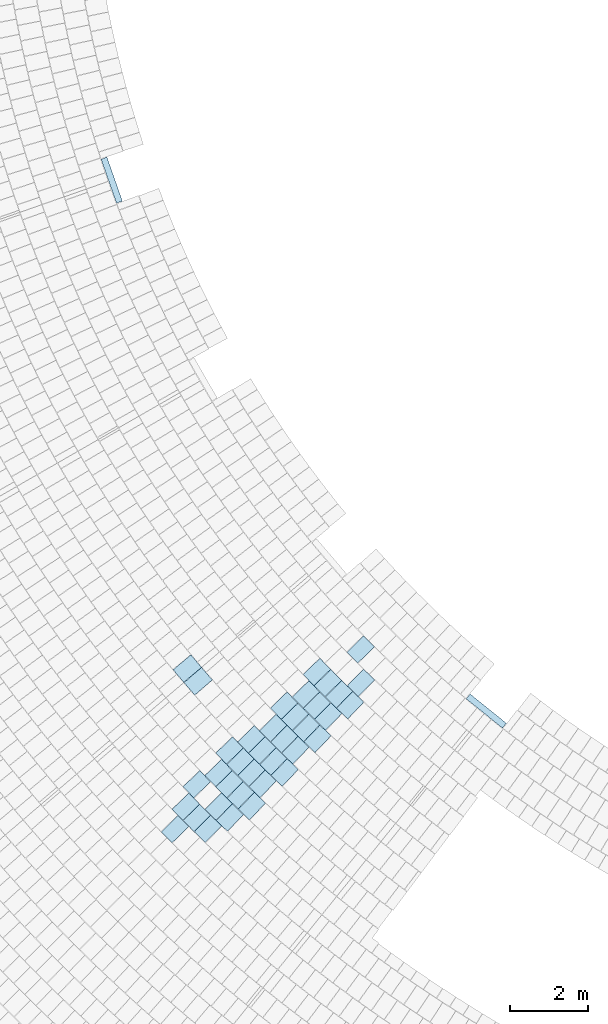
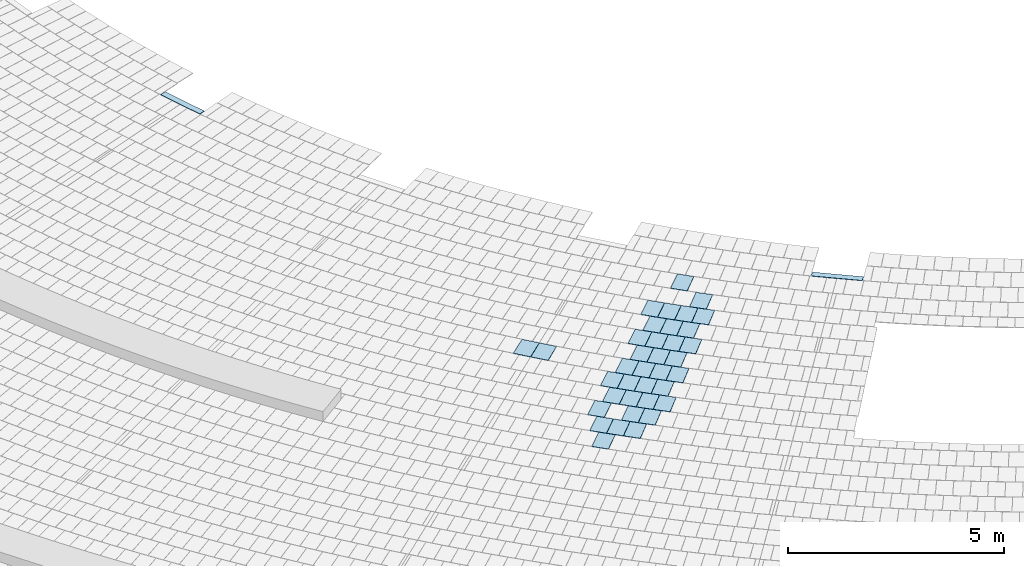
# One storey, part 8 of 438: 39 slabs.
"""IFC2X3 building model written with IfcOpenShell, lengths in millimetres."""

from ifc_helpers import new_model, entity, si_unit, converted_unit, derived_unit, direction, frame, frame_2d, origin, place, context, subcontext, project, spatial, polyline, rectangle, outline, extrude, material, layer, layer_set, layer_usage, type_object, element, save


model = new_model("IFC2X3")

# Units and contexts
model_context = context("Model", 3, precision=0.01, world=origin(), true_north=direction((6.123031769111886e-17, 1.0)))
body_context = subcontext(model_context, "Body", "Model", "MODEL_VIEW")
ifc_project = project(units=[si_unit("LENGTHUNIT", "METRE", prefix="MILLI"), si_unit("AREAUNIT", "SQUARE_METRE"), si_unit("VOLUMEUNIT", "CUBIC_METRE"), converted_unit("PLANEANGLEUNIT", "DEGREE", entity("IfcRatioMeasure", 0.017453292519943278), si_unit("PLANEANGLEUNIT", "RADIAN"), dimensions=[0, 0, 0, 0, 0, 0, 0]), si_unit("MASSUNIT", "GRAM", prefix="KILO"), derived_unit("MASSDENSITYUNIT", [(si_unit("MASSUNIT", "GRAM", prefix="KILO"), 1), (si_unit("LENGTHUNIT", "METRE"), -3)]), derived_unit("MOMENTOFINERTIAUNIT", [(si_unit("LENGTHUNIT", "METRE"), 4)]), si_unit("TIMEUNIT", "SECOND"), si_unit("FREQUENCYUNIT", "HERTZ"), si_unit("THERMODYNAMICTEMPERATUREUNIT", "DEGREE_CELSIUS"), derived_unit("THERMALTRANSMITTANCEUNIT", [(si_unit("MASSUNIT", "GRAM", prefix="KILO"), 1), (si_unit("THERMODYNAMICTEMPERATUREUNIT", "KELVIN"), -1), (si_unit("TIMEUNIT", "SECOND"), -3)]), derived_unit("THERMALCONDUCTANCEUNIT", [(si_unit("MASSUNIT", "GRAM", prefix="KILO"), 1), (si_unit("LENGTHUNIT", "METRE"), 1), (si_unit("THERMODYNAMICTEMPERATUREUNIT", "KELVIN"), -1), (si_unit("TIMEUNIT", "SECOND"), -3)]), derived_unit("VOLUMETRICFLOWRATEUNIT", [(si_unit("LENGTHUNIT", "METRE"), 3), (si_unit("TIMEUNIT", "SECOND"), -1)]), derived_unit("MASSFLOWRATEUNIT", [(si_unit("MASSUNIT", "GRAM", prefix="KILO"), 1), (si_unit("TIMEUNIT", "SECOND"), -1)]), derived_unit("ROTATIONALFREQUENCYUNIT", [(si_unit("TIMEUNIT", "SECOND"), -1)]), si_unit("ELECTRICCURRENTUNIT", "AMPERE"), si_unit("ELECTRICVOLTAGEUNIT", "VOLT"), si_unit("POWERUNIT", "WATT"), converted_unit("FORCEUNIT", "KIP", entity("IfcRatioMeasure", 2.088543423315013e-05), si_unit("FORCEUNIT", "NEWTON"), dimensions=[1, 1, -2, 0, 0, 0, 0]), si_unit("ILLUMINANCEUNIT", "LUX"), si_unit("LUMINOUSFLUXUNIT", "LUMEN"), si_unit("LUMINOUSINTENSITYUNIT", "CANDELA"), derived_unit("USERDEFINED", [(si_unit("MASSUNIT", "GRAM", prefix="KILO"), -1), (si_unit("LENGTHUNIT", "METRE"), -2), (si_unit("TIMEUNIT", "SECOND"), 3), (si_unit("LUMINOUSFLUXUNIT", "LUMEN"), 1)]), derived_unit("USERDEFINED", [(si_unit("MASSUNIT", "GRAM", prefix="KILO"), 1), (si_unit("LENGTHUNIT", "METRE"), 3), (si_unit("TIMEUNIT", "SECOND"), -3), (si_unit("ELECTRICCURRENTUNIT", "AMPERE"), -2)]), derived_unit("USERDEFINED", [(si_unit("LENGTHUNIT", "METRE"), 2), (si_unit("TIMEUNIT", "SECOND"), -2)]), derived_unit("SOUNDPOWERUNIT", [(si_unit("MASSUNIT", "GRAM", prefix="KILO"), 1), (si_unit("LENGTHUNIT", "METRE"), 2), (si_unit("TIMEUNIT", "SECOND"), -3)]), derived_unit("SOUNDPRESSUREUNIT", [(si_unit("MASSUNIT", "GRAM", prefix="KILO"), 1), (si_unit("LENGTHUNIT", "METRE"), -1), (si_unit("TIMEUNIT", "SECOND"), -2)]), derived_unit("LINEARVELOCITYUNIT", [(si_unit("LENGTHUNIT", "METRE"), 1), (si_unit("TIMEUNIT", "SECOND"), -1)]), si_unit("PRESSUREUNIT", "PASCAL"), derived_unit("USERDEFINED", [(si_unit("LENGTHUNIT", "METRE"), -2), (si_unit("MASSUNIT", "GRAM", prefix="KILO"), 1), (si_unit("TIMEUNIT", "SECOND"), -2)]), derived_unit("LINEARFORCEUNIT", [(si_unit("MASSUNIT", "GRAM", prefix="KILO"), 1), (si_unit("LENGTHUNIT", "METRE"), 1), (si_unit("TIMEUNIT", "SECOND"), -2), (si_unit("LENGTHUNIT", "METRE"), -1)]), derived_unit("PLANARFORCEUNIT", [(si_unit("MASSUNIT", "GRAM", prefix="KILO"), 1), (si_unit("LENGTHUNIT", "METRE"), 1), (si_unit("TIMEUNIT", "SECOND"), -2), (si_unit("LENGTHUNIT", "METRE"), -2)]), derived_unit("SPECIFICHEATCAPACITYUNIT", [(si_unit("LENGTHUNIT", "METRE"), 2), (si_unit("TIMEUNIT", "SECOND"), -2), (si_unit("THERMODYNAMICTEMPERATUREUNIT", "KELVIN"), -1)]), derived_unit("VAPORPERMEABILITYUNIT", [(si_unit("TIMEUNIT", "SECOND"), 1), (si_unit("LENGTHUNIT", "METRE"), -1)]), derived_unit("DYNAMICVISCOSITYUNIT", [(si_unit("MASSUNIT", "GRAM", prefix="KILO"), 1), (si_unit("LENGTHUNIT", "METRE"), -1), (si_unit("TIMEUNIT", "SECOND"), -1)]), derived_unit("THERMALEXPANSIONCOEFFICIENTUNIT", [(si_unit("THERMODYNAMICTEMPERATUREUNIT", "KELVIN"), -1)])], contexts=[model_context])

# Site, building, storey
site_placement = place(None, frame((0.0, 0.0, 0.0), z_axis=(0.0, 0.0, 1.0), x_axis=(0.8191520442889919, 0.5735764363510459, 0.0)))
site = spatial("IfcSite", under=ifc_project, at=site_placement, Name="Default", CompositionType="ELEMENT")
building_placement = place(site_placement, origin())
building = spatial("IfcBuilding", under=site, at=building_placement, CompositionType="ELEMENT")
storey_placement = place(building_placement, origin())
storey = spatial("IfcBuildingStorey", under=building, at=storey_placement, Name="PLAN", CompositionType="ELEMENT", Elevation=0.0)

# Slabs
ifc_material = material(Name="Paint-01")
ifc_layer = layer(ifc_material, 20.00000000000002)
ifc_layer_set = layer_set([ifc_layer], Name="Floor:Slab-179:1000")
ifc_layer_usage = layer_usage(ifc_layer_set, "AXIS3", "POSITIVE", 0.0)
slab_type = type_object("IfcSlabType", Name="Floor:Slab-179:1000", PredefinedType="FLOOR", material=ifc_layer_set)
slab_1_placement = place(storey_placement, origin())
element("IfcSlab", 1, at=slab_1_placement, inside=storey, type_object=slab_type, material=ifc_layer_usage, Name="Floor:Slab-179:1000", ObjectType="Floor:Slab-179:1000", PredefinedType="FLOOR", context=body_context, shape_type="SweptSolid", body=[
    extrude(rectangle(XDim=1199.999999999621, YDim=160.00000000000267, at=frame_2d((1.2505552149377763e-11, -3.510081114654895e-12), x_axis=(1.0, 0.0))), frame((-69764.5221951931, -59684.35999595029, 520.0), z_axis=(0.0, 0.0, -1.0), x_axis=(-0.27021694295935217, -0.962799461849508, 0.0)), (0.0, 0.0, 1.0), 20.000000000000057),
])
slab_2_placement = place(storey_placement, origin())
element("IfcSlab", 2, at=slab_2_placement, inside=storey, type_object=slab_type, material=ifc_layer_usage, Name="Floor:Slab-179:1000", ObjectType="Floor:Slab-179:1000", PredefinedType="FLOOR", context=body_context, shape_type="SweptSolid", body=[
    extrude(rectangle(XDim=1199.9999999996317, YDim=160.00000000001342, at=frame_2d((4.149569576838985e-12, 1.2008172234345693e-12), x_axis=(1.0, 0.0))), frame((-69704.58627022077, -76421.48115330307, 520.0), z_axis=(0.0, 0.0, -1.0), x_axis=(0.277105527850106, -0.9608394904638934, 0.0)), (0.0, 0.0, 1.0), 20.000000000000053),
])
slab_3_placement = place(storey_placement, origin())
element("IfcSlab", 3, at=slab_3_placement, inside=storey, type_object=slab_type, material=ifc_layer_usage, Name="Floor:Slab-179:1000", ObjectType="Floor:Slab-179:1000", PredefinedType="FLOOR", context=body_context, shape_type="SweptSolid", body=[
    extrude(outline(polyline([(-300.0, -212.62516565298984), (299.999997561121, -212.6251656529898), (300.0, 212.6251656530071), (-299.9999975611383, 212.62516565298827), (-300.0, -212.62516565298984)])), frame((-75384.99255701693, -71107.78041818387, 520.0), z_axis=(0.0, 0.0, -1.0), x_axis=(0.9959950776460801, 0.08940808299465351, 0.0)), (0.0, 0.0, 1.0), 20.000000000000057),
])
slab_4_placement = place(storey_placement, origin())
element("IfcSlab", 4, at=slab_4_placement, inside=storey, type_object=slab_type, material=ifc_layer_usage, Name="Floor:Slab-179:1000", ObjectType="Floor:Slab-179:1000", PredefinedType="FLOOR", context=body_context, shape_type="SweptSolid", body=[
    extrude(outline(polyline([(-200.00000453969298, -299.999998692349), (200.00000134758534, -299.999998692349), (200.0000045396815, 299.9999986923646), (-200.000001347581, 299.99999869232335), (-200.00000453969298, -299.999998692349)])), frame((-71446.23757160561, -73264.51028152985, 520.0), z_axis=(0.0, 0.0, -1.0), x_axis=(0.16839005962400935, -0.9857204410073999, 0.0)), (0.0, 0.0, 1.0), 20.000000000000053),
])
slab_5_placement = place(storey_placement, origin())
element("IfcSlab", 5, at=slab_5_placement, inside=storey, type_object=slab_type, material=ifc_layer_usage, Name="Floor:Slab-179:1000", ObjectType="Floor:Slab-179:1000", PredefinedType="FLOOR", context=body_context, shape_type="SweptSolid", body=[
    extrude(outline(polyline([(-200.00000453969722, -299.99999869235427), (200.00000134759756, -299.99999869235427), (200.00000453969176, 299.9999986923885), (-200.00000134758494, 299.99999869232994), (-200.00000453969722, -299.99999869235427)])), frame((-72700.81646020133, -73093.06729597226, 520.0), z_axis=(0.0, 0.0, -1.0), x_axis=(0.15694595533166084, -0.9876071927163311, 0.0)), (0.0, 0.0, 1.0), 20.000000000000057),
])
slab_6_placement = place(storey_placement, origin())
element("IfcSlab", 6, at=slab_6_placement, inside=storey, type_object=slab_type, material=ifc_layer_usage, Name="Floor:Slab-179:1000", ObjectType="Floor:Slab-179:1000", PredefinedType="FLOOR", context=body_context, shape_type="SweptSolid", body=[
    extrude(outline(polyline([(-200.00000453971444, -299.99999869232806), (200.00000134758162, -299.999998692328), (200.00000453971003, 299.99999869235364), (-200.00000134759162, 299.9999986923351), (-200.00000453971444, -299.99999869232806)])), frame((-72635.00619412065, -73491.35323900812, 520.0), z_axis=(0.0, 0.0, -1.0), x_axis=(0.16909437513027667, -0.9855998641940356, 0.0)), (0.0, 0.0, 1.0), 20.000000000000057),
])
slab_7_placement = place(storey_placement, origin())
element("IfcSlab", 7, at=slab_7_placement, inside=storey, type_object=slab_type, material=ifc_layer_usage, Name="Floor:Slab-179:1000", ObjectType="Floor:Slab-179:1000", PredefinedType="FLOOR", context=body_context, shape_type="SweptSolid", body=[
    extrude(outline(polyline([(-300.0, -200.00000294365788), (299.9999976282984, -200.00000294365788), (300.0, 200.00000294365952), (-299.99999762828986, 200.00000294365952), (-300.0, -200.00000294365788)])), frame((-72488.69917299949, -74285.34334370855, 520.0), z_axis=(0.0, 0.0, -1.0), x_axis=(0.9811372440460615, 0.19331246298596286, 0.0)), (0.0, 0.0, 1.0), 20.000000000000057),
])
slab_8_placement = place(storey_placement, origin())
element("IfcSlab", 8, at=slab_8_placement, inside=storey, type_object=slab_type, material=ifc_layer_usage, Name="Floor:Slab-179:1000", ObjectType="Floor:Slab-179:1000", PredefinedType="FLOOR", context=body_context, shape_type="SweptSolid", body=[
    extrude(outline(polyline([(-200.00000453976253, -299.9999986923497), (200.00000134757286, -299.9999986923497), (200.00000453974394, 299.9999986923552), (-200.0000013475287, 299.9999986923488), (-200.00000453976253, -299.9999986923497)])), frame((-73194.59257295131, -73803.5564931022, 520.0), z_axis=(0.0, 0.0, -1.0), x_axis=(0.17538072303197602, -0.9845006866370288, 0.0)), (0.0, 0.0, 1.0), 20.000000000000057),
])
slab_9_placement = place(storey_placement, origin())
element("IfcSlab", 9, at=slab_9_placement, inside=storey, type_object=slab_type, material=ifc_layer_usage, Name="Floor:Slab-179:1000", ObjectType="Floor:Slab-179:1000", PredefinedType="FLOOR", context=body_context, shape_type="SweptSolid", body=[
    extrude(outline(polyline([(-200.00000453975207, -299.9999986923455), (200.00000134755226, -299.9999986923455), (200.00000453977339, 299.9999986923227), (-200.0000013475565, 299.99999869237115), (-200.00000453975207, -299.9999986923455)])), frame((-73262.97662288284, -73405.77262573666, 520.0), z_axis=(0.0, 0.0, -1.0), x_axis=(0.1634674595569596, -0.9865487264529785, 0.0)), (0.0, 0.0, 1.0), 20.000000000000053),
])
slab_10_placement = place(storey_placement, origin())
element("IfcSlab", 10, at=slab_10_placement, inside=storey, type_object=slab_type, material=ifc_layer_usage, Name="Floor:Slab-179:1000", ObjectType="Floor:Slab-179:1000", PredefinedType="FLOOR", context=body_context, shape_type="SweptSolid", body=[
    extrude(outline(polyline([(-200.00000453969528, -299.99999869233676), (200.00000134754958, -299.9999986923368), (200.00000453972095, 299.9999986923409), (-200.00000134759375, 299.9999986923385), (-200.00000453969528, -299.99999869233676)])), frame((-73889.9029089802, -73320.08111603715, 520.0), z_axis=(0.0, 0.0, -1.0), x_axis=(0.15803756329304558, -0.9874331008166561, 0.0)), (0.0, 0.0, 1.0), 19.99999999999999),
])
slab_11_placement = place(storey_placement, origin())
element("IfcSlab", 11, at=slab_11_placement, inside=storey, type_object=slab_type, material=ifc_layer_usage, Name="Floor:Slab-179:1000", ObjectType="Floor:Slab-179:1000", PredefinedType="FLOOR", context=body_context, shape_type="SweptSolid", body=[
    extrude(outline(polyline([(-200.00000453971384, -299.99999869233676), (200.00000134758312, -299.99999869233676), (200.00000453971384, 299.99999869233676), (-200.00000134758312, 299.99999869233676), (-200.00000453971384, -299.99999869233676)])), frame((-73823.7621080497, -73718.17838088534, 520.0), z_axis=(0.0, 0.0, -1.0), x_axis=(0.16974802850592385, -0.985487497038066, 0.0)), (0.0, 0.0, 1.0), 19.999999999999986),
])
slab_12_placement = place(storey_placement, origin())
element("IfcSlab", 12, at=slab_12_placement, inside=storey, type_object=slab_type, material=ifc_layer_usage, Name="Floor:Slab-179:1000", ObjectType="Floor:Slab-179:1000", PredefinedType="FLOOR", context=body_context, shape_type="SweptSolid", body=[
    extrude(outline(polyline([(-300.0, -200.0000029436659), (299.9999976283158, -200.0000029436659), (300.0, 200.0000029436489), (-299.9999976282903, 200.0000029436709), (-300.0, -200.0000029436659)])), frame((-73677.32729797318, -74511.87734896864, 520.0), z_axis=(0.0, 0.0, -1.0), x_axis=(0.9811799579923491, 0.1930955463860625, 0.0)), (0.0, 0.0, 1.0), 20.000000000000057),
])
slab_13_placement = place(storey_placement, origin())
element("IfcSlab", 13, at=slab_13_placement, inside=storey, type_object=slab_type, material=ifc_layer_usage, Name="Floor:Slab-179:1000", ObjectType="Floor:Slab-179:1000", PredefinedType="FLOOR", context=body_context, shape_type="SweptSolid", body=[
    extrude(outline(polyline([(-200.00000453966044, -299.9999986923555), (200.00000134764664, -299.9999986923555), (200.00000453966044, 299.99999869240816), (-200.00000134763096, 299.9999986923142), (-200.00000453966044, -299.9999986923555)])), frame((-74451.86450969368, -73632.67764053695, 520.0), z_axis=(0.0, 0.0, -1.0), x_axis=(0.1643087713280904, -0.9864089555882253, 0.0)), (0.0, 0.0, 1.0), 20.000000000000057),
])
slab_14_placement = place(storey_placement, origin())
element("IfcSlab", 14, at=slab_14_placement, inside=storey, type_object=slab_type, material=ifc_layer_usage, Name="Floor:Slab-179:1000", ObjectType="Floor:Slab-179:1000", PredefinedType="FLOOR", context=body_context, shape_type="SweptSolid", body=[
    extrude(outline(polyline([(-200.00000453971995, -299.999998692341), (200.00000134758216, -299.99999869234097), (200.00000453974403, 299.9999986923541), (-200.0000013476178, 299.9999986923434), (-200.00000453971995, -299.999998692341)])), frame((-74383.24770669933, -74030.29212398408, 520.0), z_axis=(0.0, 0.0, -1.0), x_axis=(0.1758005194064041, -0.9844258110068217, 0.0)), (0.0, 0.0, 1.0), 20.000000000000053),
])
slab_15_placement = place(storey_placement, origin())
element("IfcSlab", 15, at=slab_15_placement, inside=storey, type_object=slab_type, material=ifc_layer_usage, Name="Floor:Slab-179:1000", ObjectType="Floor:Slab-179:1000", PredefinedType="FLOOR", context=body_context, shape_type="SweptSolid", body=[
    extrude(outline(polyline([(-212.62520768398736, -299.9999986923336), (212.62520449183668, -299.99999869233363), (212.62520768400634, 299.9999986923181), (-212.6252044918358, 299.999998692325), (-212.62520768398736, -299.9999986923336)])), frame((-75343.86912508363, -71534.91875575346, 520.0), z_axis=(0.0, 0.0, -1.0), x_axis=(0.10225489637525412, -0.994758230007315, 0.0)), (0.0, 0.0, 1.0), 19.999999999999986),
])
slab_16_placement = place(storey_placement, origin())
element("IfcSlab", 16, at=slab_16_placement, inside=storey, type_object=slab_type, material=ifc_layer_usage, Name="Floor:Slab-179:1000", ObjectType="Floor:Slab-179:1000", PredefinedType="FLOOR", context=body_context, shape_type="SweptSolid", body=[
    extrude(outline(polyline([(-200.00000453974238, -299.99999869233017), (200.0000013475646, -299.99999869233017), (200.0000045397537, 299.9999986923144), (-200.00000134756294, 299.99999869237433), (-200.00000453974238, -299.99999869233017)])), frame((-75078.95478911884, -73547.06629778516, 520.0), z_axis=(0.0, 0.0, -1.0), x_axis=(0.15905332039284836, -0.9872699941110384, 0.0)), (0.0, 0.0, 1.0), 19.99999999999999),
])
slab_17_placement = place(storey_placement, origin())
element("IfcSlab", 17, at=slab_17_placement, inside=storey, type_object=slab_type, material=ifc_layer_usage, Name="Floor:Slab-179:1000", ObjectType="Floor:Slab-179:1000", PredefinedType="FLOOR", context=body_context, shape_type="SweptSolid", body=[
    extrude(outline(polyline([(-200.0000045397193, -299.99999869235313), (200.00000134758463, -299.99999869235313), (200.00000453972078, 299.9999986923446), (-200.00000134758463, 299.99999869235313), (-200.0000045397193, -299.99999869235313)])), frame((-75012.50662440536, -73944.98770232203, 520.0), z_axis=(0.0, 0.0, -1.0), x_axis=(0.1703563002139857, -0.9853825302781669, 0.0)), (0.0, 0.0, 1.0), 19.999999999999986),
])
slab_18_placement = place(storey_placement, origin())
element("IfcSlab", 18, at=slab_18_placement, inside=storey, type_object=slab_type, material=ifc_layer_usage, Name="Floor:Slab-179:1000", ObjectType="Floor:Slab-179:1000", PredefinedType="FLOOR", context=body_context, shape_type="SweptSolid", body=[
    extrude(outline(polyline([(-200.00000453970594, -299.99999869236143), (200.0000013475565, -299.99999869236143), (200.0000045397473, 299.9999986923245), (-200.00000134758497, 299.9999986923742), (-200.00000453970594, -299.99999869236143)])), frame((-75640.73211734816, -73859.5616706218, 520.0), z_axis=(0.0, 0.0, -1.0), x_axis=(0.16509264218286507, -0.986278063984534, 0.0)), (0.0, 0.0, 1.0), 20.000000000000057),
])
slab_19_placement = place(storey_placement, origin())
element("IfcSlab", 19, at=slab_19_placement, inside=storey, type_object=slab_type, material=ifc_layer_usage, Name="Floor:Slab-179:1000", ObjectType="Floor:Slab-179:1000", PredefinedType="FLOOR", context=body_context, shape_type="SweptSolid", body=[
    extrude(outline(polyline([(-200.0000045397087, -299.9999986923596), (200.00000134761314, -299.9999986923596), (200.00000453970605, 299.9999986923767), (-200.00000134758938, 299.9999986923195), (-200.0000045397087, -299.9999986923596)])), frame((-75705.08429222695, -73461.35503507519, 520.0), z_axis=(0.0, 0.0, -1.0), x_axis=(0.15397265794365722, -0.9880751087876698, 0.0)), (0.0, 0.0, 1.0), 20.000000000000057),
])
slab_20_placement = place(storey_placement, origin())
element("IfcSlab", 20, at=slab_20_placement, inside=storey, type_object=slab_type, material=ifc_layer_usage, Name="Floor:Slab-179:1000", ObjectType="Floor:Slab-179:1000", PredefinedType="FLOOR", context=body_context, shape_type="SweptSolid", body=[
    extrude(outline(polyline([(-200.00000453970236, -299.9999986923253), (200.00000134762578, -299.99999869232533), (200.00000453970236, 299.9999986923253), (-200.00000134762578, 299.99999869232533), (-200.00000453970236, -299.9999986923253)])), frame((-75571.89859551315, -74257.01817550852, 520.0), z_axis=(0.0, 0.0, -1.0), x_axis=(0.1761916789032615, -0.9843558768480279, 0.0)), (0.0, 0.0, 1.0), 20.000000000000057),
])
slab_21_placement = place(storey_placement, origin())
element("IfcSlab", 21, at=slab_21_placement, inside=storey, type_object=slab_type, material=ifc_layer_usage, Name="Floor:Slab-179:1000", ObjectType="Floor:Slab-179:1000", PredefinedType="FLOOR", context=body_context, shape_type="SweptSolid", body=[
    extrude(outline(polyline([(-200.00000453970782, -299.9999986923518), (200.0000013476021, -299.99999869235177), (200.00000453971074, 299.99999869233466), (-200.0000013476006, 299.99999869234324), (-200.00000453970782, -299.9999986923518)])), frame((-76201.24092873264, -74171.78262916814, 520.0), z_axis=(0.0, 0.0, -1.0), x_axis=(0.17092375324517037, -0.9852842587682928, 0.0)), (0.0, 0.0, 1.0), 20.000000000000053),
])
slab_22_placement = place(storey_placement, origin())
element("IfcSlab", 22, at=slab_22_placement, inside=storey, type_object=slab_type, material=ifc_layer_usage, Name="Floor:Slab-179:1000", ObjectType="Floor:Slab-179:1000", PredefinedType="FLOOR", context=body_context, shape_type="SweptSolid", body=[
    extrude(outline(polyline([(-200.00000453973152, -299.9999986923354), (200.0000013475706, -299.9999986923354), (200.00000453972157, 299.99999869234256), (-200.00000134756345, 299.9999986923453), (-200.00000453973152, -299.9999986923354)])), frame((-76267.9756379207, -73774.02552926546, 520.0), z_axis=(0.0, 0.0, -1.0), x_axis=(0.16000086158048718, -0.9871168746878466, 0.0)), (0.0, 0.0, 1.0), 20.000000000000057),
])
slab_23_placement = place(storey_placement, origin())
element("IfcSlab", 23, at=slab_23_placement, inside=storey, type_object=slab_type, material=ifc_layer_usage, Name="Floor:Slab-179:1000", ObjectType="Floor:Slab-179:1000", PredefinedType="FLOOR", context=body_context, shape_type="SweptSolid", body=[
    extrude(outline(polyline([(-300.0, -200.00000294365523), (299.9999976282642, -200.00000294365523), (300.0, 200.00000294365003), (-299.9999976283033, 200.00000294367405), (-300.0, -200.00000294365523)])), frame((-76054.5765693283, -74964.95760587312, 520.0), z_axis=(0.0, 0.0, -1.0), x_axis=(0.9812566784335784, 0.19270529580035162, 0.0)), (0.0, 0.0, 1.0), 19.999999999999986),
])
slab_24_placement = place(storey_placement, origin())
element("IfcSlab", 24, at=slab_24_placement, inside=storey, type_object=slab_type, material=ifc_layer_usage, Name="Floor:Slab-179:1000", ObjectType="Floor:Slab-179:1000", PredefinedType="FLOOR", context=body_context, shape_type="SweptSolid", body=[
    extrude(outline(polyline([(-200.0000045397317, -299.9999986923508), (200.00000134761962, -299.99999869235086), (200.0000045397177, 299.9999986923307), (-200.00000134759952, 299.9999986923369), (-200.0000045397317, -299.9999986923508)])), frame((-76760.54566417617, -74483.73559234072, 520.0), z_axis=(0.0, 0.0, -1.0), x_axis=(0.17655703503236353, -0.9842904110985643, 0.0)), (0.0, 0.0, 1.0), 20.000000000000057),
])
slab_25_placement = place(storey_placement, origin())
element("IfcSlab", 25, at=slab_25_placement, inside=storey, type_object=slab_type, material=ifc_layer_usage, Name="Floor:Slab-179:1000", ObjectType="Floor:Slab-179:1000", PredefinedType="FLOOR", context=body_context, shape_type="SweptSolid", body=[
    extrude(outline(polyline([(-200.00000453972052, -299.999998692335), (200.0000013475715, -299.999998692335), (200.00000453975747, 299.99999869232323), (-200.0000013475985, 299.99999869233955), (-200.00000453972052, -299.999998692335)])), frame((-76894.28532965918, -73688.38952769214, 520.0), z_axis=(0.0, 0.0, -1.0), x_axis=(0.15507280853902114, -0.9879030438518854, 0.0)), (0.0, 0.0, 1.0), 19.999999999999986),
])
slab_26_placement = place(storey_placement, origin())
element("IfcSlab", 26, at=slab_26_placement, inside=storey, type_object=slab_type, material=ifc_layer_usage, Name="Floor:Slab-179:1000", ObjectType="Floor:Slab-179:1000", PredefinedType="FLOOR", context=body_context, shape_type="SweptSolid", body=[
    extrude(outline(polyline([(-200.000004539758, -299.9999986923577), (200.0000013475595, -299.9999986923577), (200.00000453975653, 299.9999986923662), (-200.00000134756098, 299.9999986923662), (-200.000004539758, -299.9999986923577)])), frame((-77389.96600517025, -74398.56467005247, 520.0), z_axis=(0.0, 0.0, -1.0), x_axis=(0.1714543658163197, -0.9851920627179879, 0.0)), (0.0, 0.0, 1.0), 20.000000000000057),
])
slab_27_placement = place(storey_placement, origin())
element("IfcSlab", 27, at=slab_27_placement, inside=storey, type_object=slab_type, material=ifc_layer_usage, Name="Floor:Slab-179:1000", ObjectType="Floor:Slab-179:1000", PredefinedType="FLOOR", context=body_context, shape_type="SweptSolid", body=[
    extrude(outline(polyline([(-200.0000045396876, -299.9999986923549), (200.00000134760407, -299.99999869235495), (200.0000045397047, 299.99999869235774), (-200.00000134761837, 299.99999869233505), (-200.0000045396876, -299.9999986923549)])), frame((-77456.96848635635, -74000.96142142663, 520.0), z_axis=(0.0, 0.0, -1.0), x_axis=(0.1608868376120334, -0.9869728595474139, 0.0)), (0.0, 0.0, 1.0), 20.000000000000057),
])
slab_28_placement = place(storey_placement, origin())
element("IfcSlab", 28, at=slab_28_placement, inside=storey, type_object=slab_type, material=ifc_layer_usage, Name="Floor:Slab-179:1000", ObjectType="Floor:Slab-179:1000", PredefinedType="FLOOR", context=body_context, shape_type="SweptSolid", body=[
    extrude(outline(polyline([(-200.00000453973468, -299.9999986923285), (200.00000134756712, -299.9999986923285), (200.00000453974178, 299.99999869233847), (-200.00000134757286, 299.9999986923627), (-200.00000453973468, -299.9999986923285)])), frame((-78018.41433889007, -74313.27475111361, 520.0), z_axis=(0.0, 0.0, -1.0), x_axis=(0.16651008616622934, -0.9860397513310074, 0.0)), (0.0, 0.0, 1.0), 19.99999999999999),
])
slab_29_placement = place(storey_placement, origin())
element("IfcSlab", 29, at=slab_29_placement, inside=storey, type_object=slab_type, material=ifc_layer_usage, Name="Floor:Slab-179:1000", ObjectType="Floor:Slab-179:1000", PredefinedType="FLOOR", context=body_context, shape_type="SweptSolid", body=[
    extrude(outline(polyline([(-300.0, -200.0000029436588), (299.9999976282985, -200.00000294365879), (300.0, 200.00000294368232), (-299.99999762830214, 200.00000294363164), (-300.0, -200.0000029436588)])), frame((-71932.81154861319, -73973.88997097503, 520.0), z_axis=(0.0, 0.0, -1.0), x_axis=(0.9823087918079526, 0.18726835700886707, 0.0)), (0.0, 0.0, 1.0), 20.000000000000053),
])
slab_30_placement = place(storey_placement, origin())
element("IfcSlab", 30, at=slab_30_placement, inside=storey, type_object=slab_type, material=ifc_layer_usage, Name="Floor:Slab-179:1000", ObjectType="Floor:Slab-179:1000", PredefinedType="FLOOR", context=body_context, shape_type="SweptSolid", body=[
    extrude(outline(polyline([(-300.0, -200.0000029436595), (299.99999762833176, -200.00000294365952), (300.0, 200.00000294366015), (-299.99999762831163, 200.00000294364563), (-300.0, -200.0000029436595)])), frame((-73752.90024213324, -74115.46245527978, 520.0), z_axis=(0.0, 0.0, -1.0), x_axis=(0.9834030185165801, 0.18143456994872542, 0.0)), (0.0, 0.0, 1.0), 19.99999999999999),
])
slab_31_placement = place(storey_placement, origin())
element("IfcSlab", 31, at=slab_31_placement, inside=storey, type_object=slab_type, material=ifc_layer_usage, Name="Floor:Slab-179:1000", ObjectType="Floor:Slab-179:1000", PredefinedType="FLOOR", context=body_context, shape_type="SweptSolid", body=[
    extrude(outline(polyline([(-300.0, -200.0000029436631), (299.9999976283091, -200.0000029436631), (300.0, 200.00000294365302), (-299.9999976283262, 200.00000294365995), (-300.0, -200.0000029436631)])), frame((-72564.29685793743, -73888.79867589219, 520.0), z_axis=(0.0, 0.0, -1.0), x_axis=(0.9834431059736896, 0.18121715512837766, 0.0)), (0.0, 0.0, 1.0), 20.000000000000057),
])
slab_32_placement = place(storey_placement, origin())
element("IfcSlab", 32, at=slab_32_placement, inside=storey, type_object=slab_type, material=ifc_layer_usage, Name="Floor:Slab-179:1000", ObjectType="Floor:Slab-179:1000", PredefinedType="FLOOR", context=body_context, shape_type="SweptSolid", body=[
    extrude(outline(polyline([(-300.0, -200.000002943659), (299.9999976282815, -200.00000294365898), (300.0, 200.0000029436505), (-299.9999976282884, 200.00000294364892), (-300.0, -200.000002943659)])), frame((-74941.50292139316, -74342.12153231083, 520.0), z_axis=(0.0, 0.0, -1.0), x_axis=(0.9833656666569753, 0.1816369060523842, 0.0)), (0.0, 0.0, 1.0), 19.999999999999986),
])
slab_33_placement = place(storey_placement, origin())
element("IfcSlab", 33, at=slab_33_placement, inside=storey, type_object=slab_type, material=ifc_layer_usage, Name="Floor:Slab-179:1000", ObjectType="Floor:Slab-179:1000", PredefinedType="FLOOR", context=body_context, shape_type="SweptSolid", body=[
    extrude(outline(polyline([(-300.0, -200.0000029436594), (299.9999976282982, -200.0000029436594), (300.0, 200.00000294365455), (-299.9999976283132, 200.00000294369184), (-300.0, -200.0000029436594)])), frame((-74309.99882293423, -74427.0794046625, 520.0), z_axis=(0.0, 0.0, -1.0), x_axis=(0.9823087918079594, 0.18726835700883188, 0.0)), (0.0, 0.0, 1.0), 19.999999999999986),
])
slab_34_placement = place(storey_placement, origin())
element("IfcSlab", 34, at=slab_34_placement, inside=storey, type_object=slab_type, material=ifc_layer_usage, Name="Floor:Slab-179:1000", ObjectType="Floor:Slab-179:1000", PredefinedType="FLOOR", context=body_context, shape_type="SweptSolid", body=[
    extrude(outline(polyline([(-300.0, -200.0000029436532), (299.99999762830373, -200.0000029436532), (300.0, 200.0000029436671), (-299.9999976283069, 200.00000294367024), (-300.0, -200.0000029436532)])), frame((-76130.10499687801, -74568.77622245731, 520.0), z_axis=(0.0, 0.0, -1.0), x_axis=(0.9833307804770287, 0.18182567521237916, 0.0)), (0.0, 0.0, 1.0), 19.99999999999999),
])
slab_35_placement = place(storey_placement, origin())
element("IfcSlab", 35, at=slab_35_placement, inside=storey, type_object=slab_type, material=ifc_layer_usage, Name="Floor:Slab-179:1000", ObjectType="Floor:Slab-179:1000", PredefinedType="FLOOR", context=body_context, shape_type="SweptSolid", body=[
    extrude(outline(polyline([(-300.0, -200.0000029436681), (299.999997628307, -200.0000029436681), (300.0, 200.0000029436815), (-299.9999976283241, 200.00000294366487), (-300.0, -200.0000029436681)])), frame((-75498.59246009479, -74653.67412150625, 520.0), z_axis=(0.0, 0.0, -1.0), x_axis=(0.9823087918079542, 0.1872683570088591, 0.0)), (0.0, 0.0, 1.0), 20.000000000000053),
])
slab_36_placement = place(storey_placement, origin())
element("IfcSlab", 36, at=slab_36_placement, inside=storey, type_object=slab_type, material=ifc_layer_usage, Name="Floor:Slab-179:1000", ObjectType="Floor:Slab-179:1000", PredefinedType="FLOOR", context=body_context, shape_type="SweptSolid", body=[
    extrude(outline(polyline([(-300.0, -200.00000294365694), (299.99999762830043, -200.00000294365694), (300.0, 200.00000294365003), (-299.99999762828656, 200.00000294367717), (-300.0, -200.00000294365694)])), frame((-77318.70650730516, -74795.42706654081, 520.0), z_axis=(0.0, 0.0, -1.0), x_axis=(0.9832981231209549, 0.18200220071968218, 0.0)), (0.0, 0.0, 1.0), 20.000000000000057),
])
slab_37_placement = place(storey_placement, origin())
element("IfcSlab", 37, at=slab_37_placement, inside=storey, type_object=slab_type, material=ifc_layer_usage, Name="Floor:Slab-179:1000", ObjectType="Floor:Slab-179:1000", PredefinedType="FLOOR", context=body_context, shape_type="SweptSolid", body=[
    extrude(outline(polyline([(-300.0, -200.0000029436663), (299.9999976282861, -200.0000029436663), (300.0, 200.0000029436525), (-299.99999762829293, 200.00000294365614), (-300.0, -200.0000029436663)])), frame((-76687.18609725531, -74880.26883834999, 520.0), z_axis=(0.0, 0.0, -1.0), x_axis=(0.9823087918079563, 0.1872683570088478, 0.0)), (0.0, 0.0, 1.0), 19.99999999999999),
])
slab_38_placement = place(storey_placement, origin())
element("IfcSlab", 38, at=slab_38_placement, inside=storey, type_object=slab_type, material=ifc_layer_usage, Name="Floor:Slab-179:1000", ObjectType="Floor:Slab-179:1000", PredefinedType="FLOOR", context=body_context, shape_type="SweptSolid", body=[
    extrude(outline(polyline([(-300.0, -200.0000029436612), (299.9999976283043, -200.00000294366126), (300.0, 200.00000294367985), (-299.9999976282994, 200.0000029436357), (-300.0, -200.0000029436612)])), frame((-73121.4051857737, -74200.48468781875, 520.0), z_axis=(0.0, 0.0, -1.0), x_axis=(0.9823087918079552, 0.18726835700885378, 0.0)), (0.0, 0.0, 1.0), 20.000000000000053),
])
slab_39_placement = place(storey_placement, origin())
element("IfcSlab", 39, at=slab_39_placement, inside=storey, type_object=slab_type, material=ifc_layer_usage, Name="Floor:Slab-179:1000", ObjectType="Floor:Slab-179:1000", PredefinedType="FLOOR", context=body_context, shape_type="SweptSolid", body=[
    extrude(outline(polyline([(-300.0, -200.0000029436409), (299.9999976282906, -200.0000029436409), (300.0, 200.00000294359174), (-299.99999762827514, 200.00000294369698), (-300.0, -200.0000029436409)])), frame((-74865.95300514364, -74738.41563135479, 520.0), z_axis=(0.0, 0.0, -1.0), x_axis=(0.9812196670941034, 0.19289366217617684, 0.0)), (0.0, 0.0, 1.0), 20.000000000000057),
])

save(model, "model.ifc")
